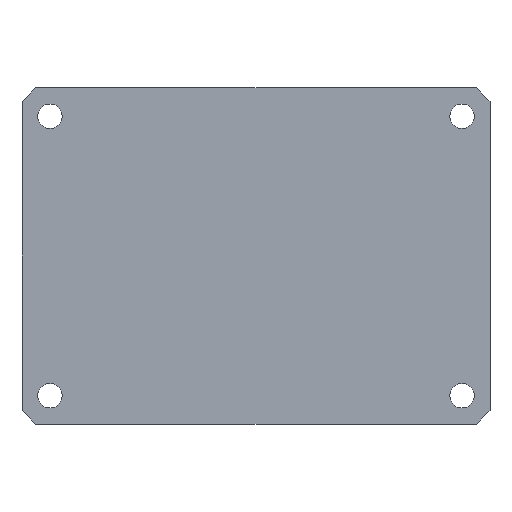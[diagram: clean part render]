
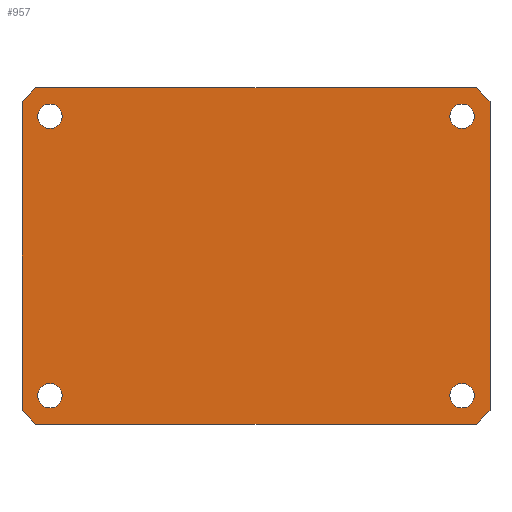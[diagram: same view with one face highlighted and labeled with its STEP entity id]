
A CAD part, front view. The second image highlights one B-rep face of the part: STEP entity #957.
In plain terms, the highlighted planar face has unit normal (0, -1, 0).
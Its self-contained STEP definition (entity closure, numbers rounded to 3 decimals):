
#957 = ADVANCED_FACE ( 'NONE', ( #4802, #4798, #4805, #4807, #4801 ), #4793, .T. ) ;
#1116 = LINE ( 'NONE', #1117, #4636 ) ;
#1117 = CARTESIAN_POINT ( 'NONE',  ( 33.5, 0., 24.1 ) ) ;
#1118 = DIRECTION ( 'NONE',  ( 0., 0., -1. ) ) ;
#1130 = CARTESIAN_POINT ( 'NONE',  ( 29.5, 0., -20. ) ) ;
#1131 = DIRECTION ( 'NONE',  ( 0., 1., 0. ) ) ;
#1132 = DIRECTION ( 'NONE',  ( 0., 0., 1. ) ) ;
#1142 = CARTESIAN_POINT ( 'NONE',  ( 29.5, 0., 20. ) ) ;
#1143 = DIRECTION ( 'NONE',  ( 0., 1., 0. ) ) ;
#1144 = DIRECTION ( 'NONE',  ( 0., 0., 1. ) ) ;
#1153 = CARTESIAN_POINT ( 'NONE',  ( -29.5, 0., 20. ) ) ;
#1154 = DIRECTION ( 'NONE',  ( 0., 1., 0. ) ) ;
#1155 = DIRECTION ( 'NONE',  ( 0., 0., 1. ) ) ;
#1164 = CARTESIAN_POINT ( 'NONE',  ( -29.5, 0., -20. ) ) ;
#1165 = DIRECTION ( 'NONE',  ( 0., 1., 0. ) ) ;
#1166 = DIRECTION ( 'NONE',  ( 0., 0., 1. ) ) ;
#1425 = CARTESIAN_POINT ( 'NONE',  ( 33.5, 0., 22.1 ) ) ;
#1480 = CARTESIAN_POINT ( 'NONE',  ( -31.5, 0., 24.1 ) ) ;
#2116 = AXIS2_PLACEMENT_3D ( 'NONE', #4804, #4808, #4809 ) ;
#2669 = CARTESIAN_POINT ( 'NONE',  ( -29.5, 0., -18.25 ) ) ;
#2676 = CARTESIAN_POINT ( 'NONE',  ( 29.5, 0., -18.25 ) ) ;
#2698 = CARTESIAN_POINT ( 'NONE',  ( -29.5, 0., 18.25 ) ) ;
#2727 = CARTESIAN_POINT ( 'NONE',  ( 29.5, 0., -21.75 ) ) ;
#2736 = CARTESIAN_POINT ( 'NONE',  ( -33.5, 0., -22.1 ) ) ;
#2743 = CARTESIAN_POINT ( 'NONE',  ( 31.5, 0., -24.1 ) ) ;
#2755 = CARTESIAN_POINT ( 'NONE',  ( 33.5, 0., -22.1 ) ) ;
#2811 = CARTESIAN_POINT ( 'NONE',  ( -29.5, 0., 21.75 ) ) ;
#2819 = CARTESIAN_POINT ( 'NONE',  ( 29.5, 0., 18.25 ) ) ;
#2833 = CARTESIAN_POINT ( 'NONE',  ( -33.5, 0., 22.1 ) ) ;
#2836 = CARTESIAN_POINT ( 'NONE',  ( 31.5, 0., 24.1 ) ) ;
#2840 = CARTESIAN_POINT ( 'NONE',  ( -31.5, 0., -24.1 ) ) ;
#2916 = CARTESIAN_POINT ( 'NONE',  ( -29.5, 0., -21.75 ) ) ;
#2978 = CARTESIAN_POINT ( 'NONE',  ( 29.5, 0., 21.75 ) ) ;
#3630 = LINE ( 'NONE', #3653, #4766 ) ;
#3650 = LINE ( 'NONE', #3651, #4642 ) ;
#3651 = CARTESIAN_POINT ( 'NONE',  ( -23.1, 0., 32.5 ) ) ;
#3652 = DIRECTION ( 'NONE',  ( -0.707, 0., -0.707 ) ) ;
#3653 = CARTESIAN_POINT ( 'NONE',  ( 56.6, 0., -1. ) ) ;
#3654 = DIRECTION ( 'NONE',  ( -0.707, 0., 0.707 ) ) ;
#3655 = LINE ( 'NONE', #3656, #4774 ) ;
#3656 = CARTESIAN_POINT ( 'NONE',  ( 32.5, 0., -23.1 ) ) ;
#3657 = DIRECTION ( 'NONE',  ( 0.707, 0., 0.707 ) ) ;
#3658 = LINE ( 'NONE', #3659, #4635 ) ;
#3659 = CARTESIAN_POINT ( 'NONE',  ( 1., 0., -56.6 ) ) ;
#3660 = DIRECTION ( 'NONE',  ( 0.707, 0., -0.707 ) ) ;
#3662 = CARTESIAN_POINT ( 'NONE',  ( 29.5, 0., -20. ) ) ;
#3663 = DIRECTION ( 'NONE',  ( 0., 1., 0. ) ) ;
#3664 = DIRECTION ( 'NONE',  ( 0., 0., 1. ) ) ;
#3665 = CARTESIAN_POINT ( 'NONE',  ( 29.5, 0., 20. ) ) ;
#3666 = DIRECTION ( 'NONE',  ( 0., 1., 0. ) ) ;
#3667 = DIRECTION ( 'NONE',  ( 0., 0., 1. ) ) ;
#3668 = CARTESIAN_POINT ( 'NONE',  ( -29.5, 0., 20. ) ) ;
#3669 = DIRECTION ( 'NONE',  ( 0., 1., 0. ) ) ;
#3670 = DIRECTION ( 'NONE',  ( 0., 0., 1. ) ) ;
#3673 = CARTESIAN_POINT ( 'NONE',  ( -29.5, 0., -20. ) ) ;
#3674 = DIRECTION ( 'NONE',  ( 0., 1., 0. ) ) ;
#3675 = DIRECTION ( 'NONE',  ( 0., 0., 1. ) ) ;
#3676 = LINE ( 'NONE', #3714, #4523 ) ;
#3708 = LINE ( 'NONE', #3709, #4771 ) ;
#3709 = CARTESIAN_POINT ( 'NONE',  ( -33.5, 0., 24.1 ) ) ;
#3710 = DIRECTION ( 'NONE',  ( 1., 0., 0. ) ) ;
#3714 = CARTESIAN_POINT ( 'NONE',  ( -33.5, 0., 24.1 ) ) ;
#3715 = DIRECTION ( 'NONE',  ( 0., 0., 1. ) ) ;
#3730 = LINE ( 'NONE', #3731, #4596 ) ;
#3731 = CARTESIAN_POINT ( 'NONE',  ( -33.5, 0., -24.1 ) ) ;
#3732 = DIRECTION ( 'NONE',  ( -1., 0., 0. ) ) ;
#4340 = EDGE_CURVE ( 'NONE', #5492, #5727, #3650, .T. ) ;
#4341 = EDGE_CURVE ( 'NONE', #5414, #5737, #3630, .T. ) ;
#4342 = EDGE_CURVE ( 'NONE', #5596, #5619, #3655, .T. ) ;
#4343 = EDGE_CURVE ( 'NONE', #5588, #5738, #3658, .T. ) ;
#4344 = EDGE_CURVE ( 'NONE', #5523, #5578, #4716, .T. ) ;
#4345 = EDGE_CURVE ( 'NONE', #6006, #5709, #4759, .T. ) ;
#4346 = EDGE_CURVE ( 'NONE', #5713, #5544, #4706, .T. ) ;
#4347 = EDGE_CURVE ( 'NONE', #5513, #5906, #4679, .T. ) ;
#4359 = EDGE_CURVE ( 'NONE', #5492, #5737, #3708, .T. ) ;
#4361 = EDGE_CURVE ( 'NONE', #5588, #5727, #3676, .T. ) ;
#4367 = EDGE_CURVE ( 'NONE', #5596, #5738, #3730, .T. ) ;
#4421 = EDGE_CURVE ( 'NONE', #5414, #5619, #1116, .T. ) ;
#4425 = EDGE_CURVE ( 'NONE', #5578, #5523, #4724, .T. ) ;
#4429 = EDGE_CURVE ( 'NONE', #5709, #6006, #4755, .T. ) ;
#4433 = EDGE_CURVE ( 'NONE', #5544, #5713, #4552, .T. ) ;
#4436 = EDGE_CURVE ( 'NONE', #5906, #5513, #4570, .T. ) ;
#4523 = VECTOR ( 'NONE', #3715, 1000. ) ;
#4527 = AXIS2_PLACEMENT_3D ( 'NONE', #1153, #1154, #1155 ) ;
#4552 = CIRCLE ( 'NONE', #4527, 1.75 ) ;
#4563 = AXIS2_PLACEMENT_3D ( 'NONE', #3665, #3666, #3667 ) ;
#4567 = AXIS2_PLACEMENT_3D ( 'NONE', #1142, #1143, #1144 ) ;
#4570 = CIRCLE ( 'NONE', #4606, 1.75 ) ;
#4596 = VECTOR ( 'NONE', #3732, 1000. ) ;
#4606 = AXIS2_PLACEMENT_3D ( 'NONE', #1164, #1165, #1166 ) ;
#4635 = VECTOR ( 'NONE', #3660, 1000. ) ;
#4636 = VECTOR ( 'NONE', #1118, 1000. ) ;
#4642 = VECTOR ( 'NONE', #3652, 1000. ) ;
#4679 = CIRCLE ( 'NONE', #4734, 1.75 ) ;
#4701 = AXIS2_PLACEMENT_3D ( 'NONE', #3662, #3663, #3664 ) ;
#4706 = CIRCLE ( 'NONE', #4721, 1.75 ) ;
#4716 = CIRCLE ( 'NONE', #4701, 1.75 ) ;
#4721 = AXIS2_PLACEMENT_3D ( 'NONE', #3668, #3669, #3670 ) ;
#4724 = CIRCLE ( 'NONE', #4735, 1.75 ) ;
#4734 = AXIS2_PLACEMENT_3D ( 'NONE', #3673, #3674, #3675 ) ;
#4735 = AXIS2_PLACEMENT_3D ( 'NONE', #1130, #1131, #1132 ) ;
#4755 = CIRCLE ( 'NONE', #4567, 1.75 ) ;
#4759 = CIRCLE ( 'NONE', #4563, 1.75 ) ;
#4766 = VECTOR ( 'NONE', #3654, 1000. ) ;
#4771 = VECTOR ( 'NONE', #3710, 1000. ) ;
#4774 = VECTOR ( 'NONE', #3657, 1000. ) ;
#4793 = PLANE ( 'NONE',  #2116 ) ;
#4798 = FACE_BOUND ( 'NONE', #5065, .T. ) ;
#4801 = FACE_OUTER_BOUND ( 'NONE', #5256, .T. ) ;
#4802 = FACE_BOUND ( 'NONE', #5245, .T. ) ;
#4804 = CARTESIAN_POINT ( 'NONE',  ( 33.5, 0., -24.1 ) ) ;
#4805 = FACE_BOUND ( 'NONE', #7077, .T. ) ;
#4807 = FACE_BOUND ( 'NONE', #5164, .T. ) ;
#4808 = DIRECTION ( 'NONE',  ( 0., -1., 0. ) ) ;
#4809 = DIRECTION ( 'NONE',  ( 0., 0., -1. ) ) ;
#5065 = EDGE_LOOP ( 'NONE', ( #5068, #5257 ) ) ;
#5068 = ORIENTED_EDGE ( 'NONE', *, *, #4346, .T. ) ;
#5091 = ORIENTED_EDGE ( 'NONE', *, *, #4342, .T. ) ;
#5117 = ORIENTED_EDGE ( 'NONE', *, *, #4425, .T. ) ;
#5164 = EDGE_LOOP ( 'NONE', ( #7097, #5117 ) ) ;
#5174 = ORIENTED_EDGE ( 'NONE', *, *, #4345, .T. ) ;
#5245 = EDGE_LOOP ( 'NONE', ( #5318, #7071 ) ) ;
#5256 = EDGE_LOOP ( 'NONE', ( #5275, #7052, #7131, #5091, #6951, #7074, #5345, #7031 ) ) ;
#5257 = ORIENTED_EDGE ( 'NONE', *, *, #4433, .T. ) ;
#5275 = ORIENTED_EDGE ( 'NONE', *, *, #4361, .F. ) ;
#5318 = ORIENTED_EDGE ( 'NONE', *, *, #4347, .T. ) ;
#5342 = ORIENTED_EDGE ( 'NONE', *, *, #4429, .T. ) ;
#5345 = ORIENTED_EDGE ( 'NONE', *, *, #4359, .F. ) ;
#5414 = VERTEX_POINT ( 'NONE', #1425 ) ;
#5492 = VERTEX_POINT ( 'NONE', #1480 ) ;
#5513 = VERTEX_POINT ( 'NONE', #2669 ) ;
#5523 = VERTEX_POINT ( 'NONE', #2676 ) ;
#5544 = VERTEX_POINT ( 'NONE', #2698 ) ;
#5578 = VERTEX_POINT ( 'NONE', #2727 ) ;
#5588 = VERTEX_POINT ( 'NONE', #2736 ) ;
#5596 = VERTEX_POINT ( 'NONE', #2743 ) ;
#5619 = VERTEX_POINT ( 'NONE', #2755 ) ;
#5709 = VERTEX_POINT ( 'NONE', #2819 ) ;
#5713 = VERTEX_POINT ( 'NONE', #2811 ) ;
#5727 = VERTEX_POINT ( 'NONE', #2833 ) ;
#5737 = VERTEX_POINT ( 'NONE', #2836 ) ;
#5738 = VERTEX_POINT ( 'NONE', #2840 ) ;
#5906 = VERTEX_POINT ( 'NONE', #2916 ) ;
#6006 = VERTEX_POINT ( 'NONE', #2978 ) ;
#6951 = ORIENTED_EDGE ( 'NONE', *, *, #4421, .F. ) ;
#7031 = ORIENTED_EDGE ( 'NONE', *, *, #4340, .T. ) ;
#7052 = ORIENTED_EDGE ( 'NONE', *, *, #4343, .T. ) ;
#7071 = ORIENTED_EDGE ( 'NONE', *, *, #4436, .T. ) ;
#7074 = ORIENTED_EDGE ( 'NONE', *, *, #4341, .T. ) ;
#7077 = EDGE_LOOP ( 'NONE', ( #5174, #5342 ) ) ;
#7097 = ORIENTED_EDGE ( 'NONE', *, *, #4344, .T. ) ;
#7131 = ORIENTED_EDGE ( 'NONE', *, *, #4367, .F. ) ;
